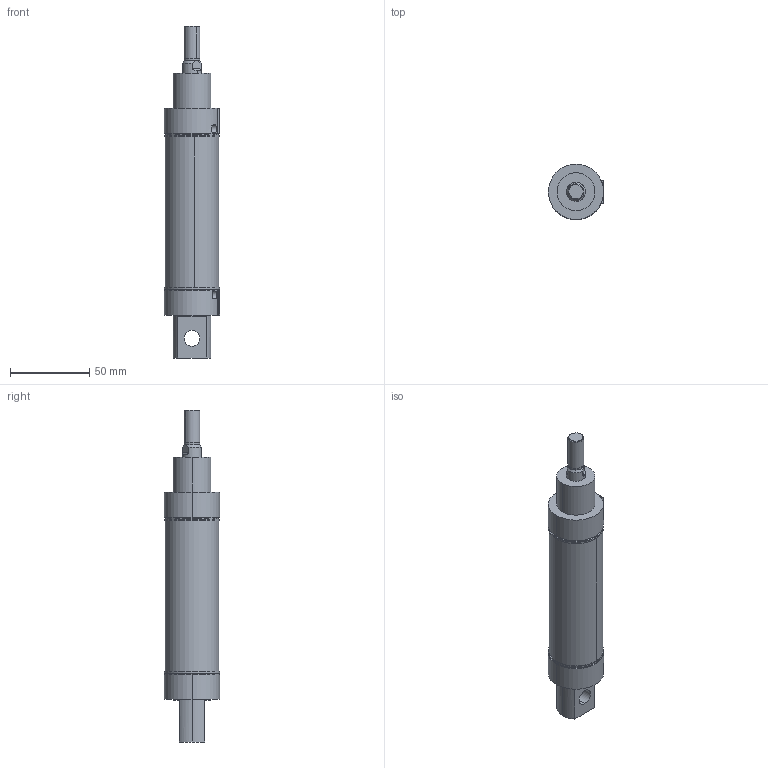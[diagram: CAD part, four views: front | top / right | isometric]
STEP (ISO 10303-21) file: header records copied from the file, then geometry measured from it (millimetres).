
FILE_DESCRIPTION (( 'STEP AP203' ), '1' );
FILE_NAME ('MAC6432S-32X60-CYLINDER.STEP', '2015-08-22T05:52:20', ( 'user' ), ( '' ), 'SwSTEP 2.0', 'SolidWorks 2013', '' );
FILE_SCHEMA (( 'CONFIG_CONTROL_DESIGN' ));
Length unit declared in the file: millimetre
Products named in the file (6): MAC6432S  32 ORTA PÝSTON; MAC6432S  32X60 BORU; MAC6432S  32 烰 KAPAK; MAC6432S  32X60 M尳; MAC6432S-32X60-CYLINDER; MAC6432S  32 ARKA KAPAK
Assembly tree (5 placements, depth 2):
  MAC6432S-32X60-CYLINDER
    MAC6432S  32 ARKA KAPAK
    MAC6432S  32 ORTA PÝSTON
    MAC6432S  32X60 BORU
    MAC6432S  32 烰 KAPAK
    MAC6432S  32X60 M尳
Bounding box: 35 x 35 x 210 mm (x, y, z)
Volume: 94765.4 mm3; surface area: 49802.1 mm2
Topology: 5 solids, 5 shells, 179 faces, 388 edges, 246 vertices
Faces by surface type: cylinder 86, plane 77, cone 16
Entity records: 5832 total; most frequent: CARTESIAN_POINT 1150, DIRECTION 922, ORIENTED_EDGE 776, EDGE_CURVE 388, AXIS2_PLACEMENT_3D 370, VERTEX_POINT 246, EDGE_LOOP 216, CIRCLE 184
